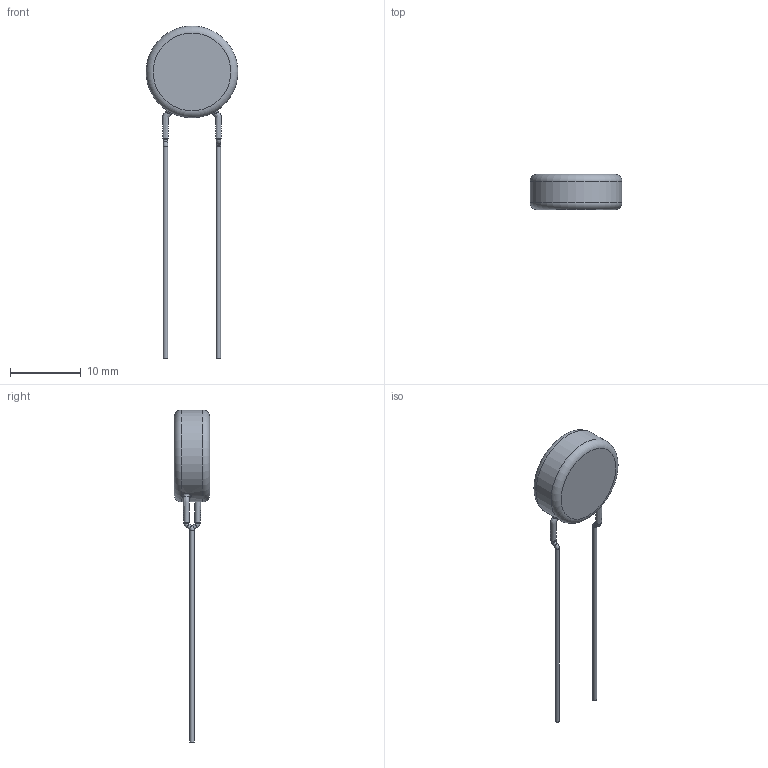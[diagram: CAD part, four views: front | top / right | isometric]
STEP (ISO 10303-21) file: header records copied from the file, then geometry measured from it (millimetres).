
FILE_DESCRIPTION(/* description */ (''),/* implementation_level */ '2;1');
FILE_NAME(/* name */ 'I:\Marketing\M6t1\3D-Models\Zchng-Werk-3\Upload for homepage\BCC\AY2\Inline Dia 0,6 LS 7,5\AY2472K49Y5US63V7.stp',/* time_stamp */ '2020-11-06T09:02:21+01:00',/* author */ ('truediger'),/* organization */ (''),/* preprocessor_version */ 'ST-DEVELOPER v18',/* originating_system */ 'Autodesk Inventor 2020',/* authorisation */ '');
FILE_SCHEMA (('AUTOMOTIVE_DESIGN { 1 0 10303 214 3 1 1 }'));
Length unit declared in the file: millimetre
Products named in the file (1): Bauteil1
Bounding box: 13 x 5 x 47 mm (x, y, z)
Volume: 669 mm3; surface area: 572.3 mm2
Topology: 1 solids, 1 shells, 27 faces, 63 edges, 42 vertices
Faces by surface type: cylinder 9, torus 6, plane 6, bspline 6
Full cylindrical faces by diameter (mm): 0.6 x4, 13 x1
Entity records: 2630 total; most frequent: CARTESIAN_POINT 1947, DIRECTION 137, ORIENTED_EDGE 126, AXIS2_PLACEMENT_3D 66, EDGE_CURVE 63, CIRCLE 42, VERTEX_POINT 42, EDGE_LOOP 31
